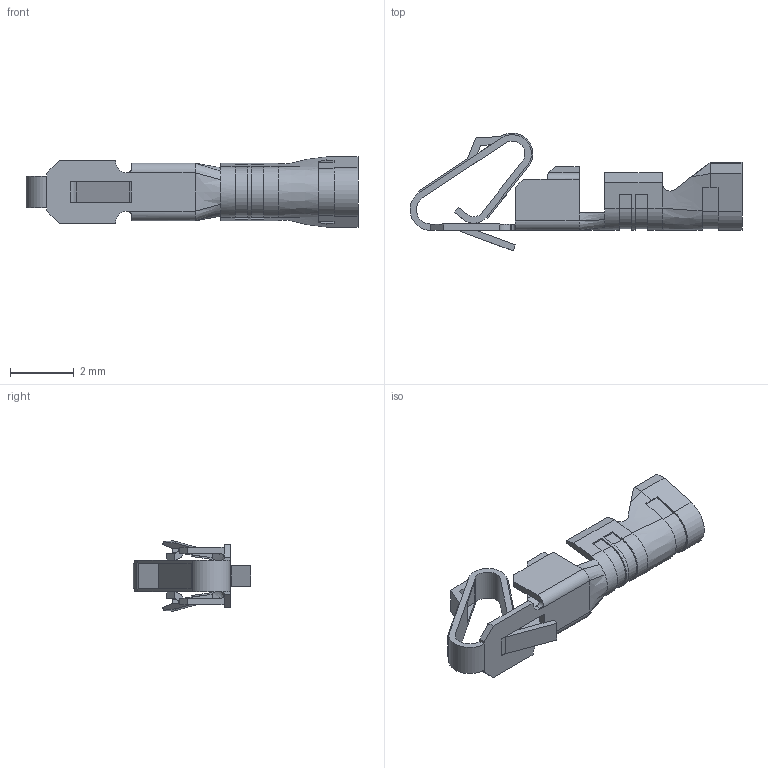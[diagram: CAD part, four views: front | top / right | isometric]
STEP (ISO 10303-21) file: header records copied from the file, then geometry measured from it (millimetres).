
FILE_DESCRIPTION((''),'2;1');
FILE_NAME('008500030','2007-05-23T',('gga'),(''),'PRO/ENGINEER BY PARAMETRIC TECHNOLOGY CORPORATION, 2003451','PRO/ENGINEER BY PARAMETRIC TECHNOLOGY CORPORATION, 2003451','');
FILE_SCHEMA(('CONFIG_CONTROL_DESIGN'));
Length unit declared in the file: millimetre
Products named in the file (1): 008500030
Bounding box: 10.4 x 3.69 x 2.2 mm (x, y, z)
Volume: 8.8 mm3; surface area: 102.3 mm2
Topology: 1 solids, 1 shells, 184 faces, 515 edges, 330 vertices
Faces by surface type: plane 126, cylinder 38, bspline 20
Entity records: 6692 total; most frequent: CARTESIAN_POINT 1985, ORIENTED_EDGE 1030, DIRECTION 887, EDGE_CURVE 515, VECTOR 397, LINE 397, VERTEX_POINT 330, AXIS2_PLACEMENT_3D 245
